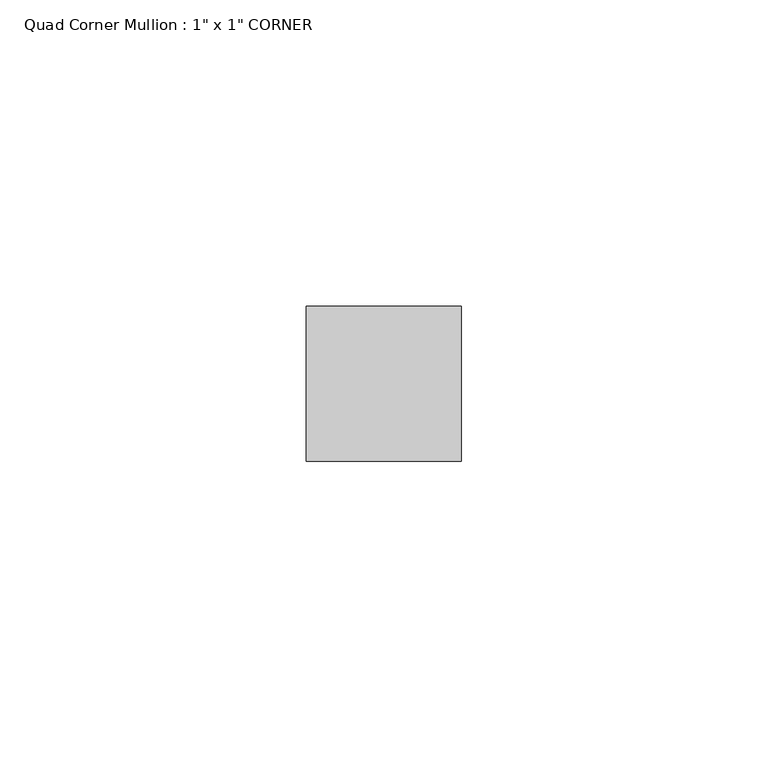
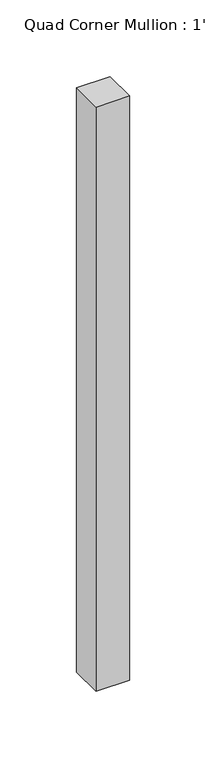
"""IFC4 building model written with IfcOpenShell, lengths in millimetres: member geometry."""

from ifc_helpers import new_model, si_unit, frame, origin, place, context, project, spatial, polyline, outline, extrude, source, transform, mapped, element, save


def member_9bdaa05a(model_context):
    return source(origin(), model_context, "Body", "SweptSolid", [
        extrude(outline(polyline([(0.0, 25.4), (0.0, 0.0), (-25.4, 0.0), (-25.4, 25.4), (0.0, 25.4)])), frame((0.0, 0.0, -465.2349571), z_axis=(0.0, 0.0, 1.0), x_axis=(1.0, 0.0, 0.0)), (0.0, 0.0, 1.0), 465.2349571),
    ])


if __name__ == "__main__":
    model = new_model("IFC4")
    model_context = context("Model", 3, world=origin())
    ifc_project = project(units=[si_unit("LENGTHUNIT", "METRE", prefix="MILLI")], contexts=[model_context])
    site = spatial("IfcSite", under=ifc_project)
    building = spatial("IfcBuilding", under=site)
    placement = place(None, origin())
    member_shape = member_9bdaa05a(model_context)
    element("IfcMember", 1, ObjectType="Quad Corner Mullion : 1\" x 1\" CORNER", at=placement, inside=building, context=model_context, shape_type="MappedRepresentation", body=[
        mapped(member_shape, transform((0.0, 0.0, 0.0), x_axis=(1.0, 0.0, 0.0), y_axis=(0.0, 1.0, 0.0), z_axis=(0.0, 0.0, 1.0))),
    ])
    save(model, "model.ifc")
